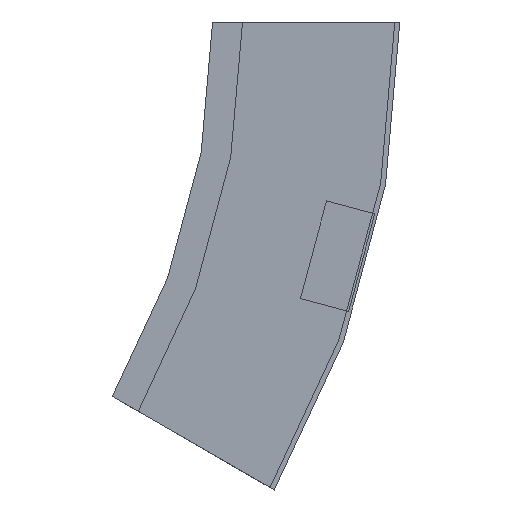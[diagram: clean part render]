
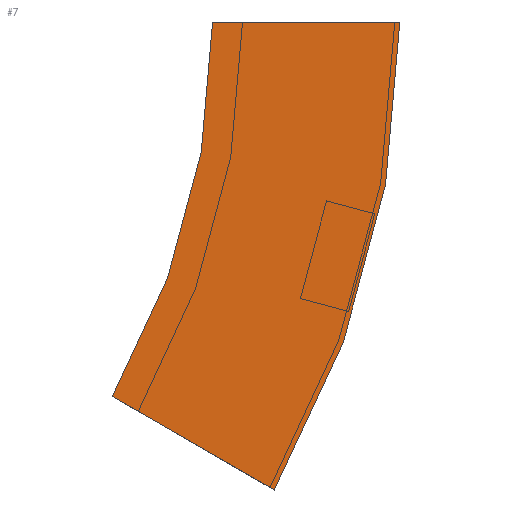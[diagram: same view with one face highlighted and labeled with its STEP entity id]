
A CAD part, left-side view. The second image highlights one B-rep face of the part: STEP entity #7.
In plain terms, the highlighted planar face has unit normal (-1, 0, 0) as drawn and (1, 0, 0) by its records, which use the part's own axes.
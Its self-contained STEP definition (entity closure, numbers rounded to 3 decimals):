
#7 = ADVANCED_FACE ( 'NONE', ( #303 ), #481, .F. ) ;
#18 = LINE ( 'NONE', #503, #332 ) ;
#50 = EDGE_CURVE ( 'NONE', #204, #514, #18, .T. ) ;
#51 = EDGE_CURVE ( 'NONE', #168, #514, #380, .T. ) ;
#69 = CARTESIAN_POINT ( 'NONE',  ( 0., 300., 0. ) ) ;
#138 = DIRECTION ( 'NONE',  ( -1., 0., 0. ) ) ;
#140 = DIRECTION ( 'NONE',  ( 0., 1., 0. ) ) ;
#157 = ORIENTED_EDGE ( 'NONE', *, *, #50, .T. ) ;
#162 = ORIENTED_EDGE ( 'NONE', *, *, #386, .F. ) ;
#168 = VERTEX_POINT ( 'NONE', #464 ) ;
#200 = AXIS2_PLACEMENT_3D ( 'NONE', #463, #457, #508 ) ;
#204 = VERTEX_POINT ( 'NONE', #384 ) ;
#244 = EDGE_LOOP ( 'NONE', ( #301, #162, #520, #157 ) ) ;
#286 = AXIS2_PLACEMENT_3D ( 'NONE', #69, #493, #360 ) ;
#291 = AXIS2_PLACEMENT_3D ( 'NONE', #526, #138, #306 ) ;
#301 = ORIENTED_EDGE ( 'NONE', *, *, #51, .F. ) ;
#303 = FACE_OUTER_BOUND ( 'NONE', #244, .T. ) ;
#306 = DIRECTION ( 'NONE',  ( 0., 0., 1. ) ) ;
#316 = CARTESIAN_POINT ( 'NONE',  ( 0., -75., 0. ) ) ;
#332 = VECTOR ( 'NONE', #542, 1000. ) ;
#353 = LINE ( 'NONE', #527, #466 ) ;
#360 = DIRECTION ( 'NONE',  ( 0., -1., 0. ) ) ;
#380 = CIRCLE ( 'NONE', #286, 300. ) ;
#384 = CARTESIAN_POINT ( 'NONE',  ( 0., -24.76, -187.5 ) ) ;
#386 = EDGE_CURVE ( 'NONE', #417, #168, #353, .T. ) ;
#409 = CARTESIAN_POINT ( 'NONE',  ( 0., 40.192, -150. ) ) ;
#417 = VERTEX_POINT ( 'NONE', #316 ) ;
#444 = EDGE_CURVE ( 'NONE', #417, #204, #539, .T. ) ;
#457 = DIRECTION ( 'NONE',  ( 1., 0., 0. ) ) ;
#463 = CARTESIAN_POINT ( 'NONE',  ( 0., 300., 0. ) ) ;
#464 = CARTESIAN_POINT ( 'NONE',  ( 0., 0., 0. ) ) ;
#466 = VECTOR ( 'NONE', #140, 1000. ) ;
#481 = PLANE ( 'NONE',  #291 ) ;
#493 = DIRECTION ( 'NONE',  ( 1., 0., 0. ) ) ;
#503 = CARTESIAN_POINT ( 'NONE',  ( 0., -24.76, -187.5 ) ) ;
#508 = DIRECTION ( 'NONE',  ( 0., -1., 0. ) ) ;
#514 = VERTEX_POINT ( 'NONE', #409 ) ;
#520 = ORIENTED_EDGE ( 'NONE', *, *, #444, .T. ) ;
#526 = CARTESIAN_POINT ( 'NONE',  ( 0., -75., 0. ) ) ;
#527 = CARTESIAN_POINT ( 'NONE',  ( 0., -75., 0. ) ) ;
#539 = CIRCLE ( 'NONE', #200, 375. ) ;
#542 = DIRECTION ( 'NONE',  ( 0., 0.866, 0.5 ) ) ;
